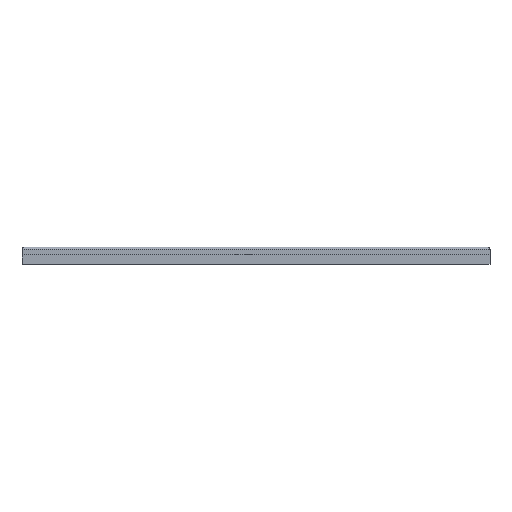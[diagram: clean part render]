
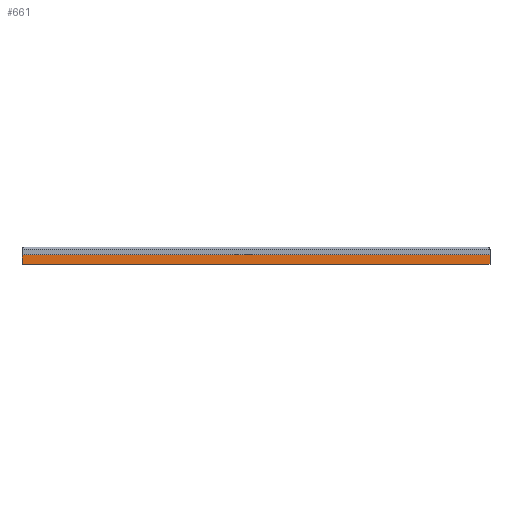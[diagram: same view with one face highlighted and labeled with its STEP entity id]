
A CAD part, front view. The second image highlights one B-rep face of the part: STEP entity #661.
In plain terms, the highlighted planar face has unit normal (0, -1, 0).
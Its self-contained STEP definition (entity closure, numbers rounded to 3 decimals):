
#32 = PLANE('',#33);
#33 = AXIS2_PLACEMENT_3D('',#34,#35,#36);
#34 = CARTESIAN_POINT('',(-86.4,-11.75,46.9));
#35 = DIRECTION('',(1.,0.,-0.));
#36 = DIRECTION('',(0.,0.,1.));
#57 = VERTEX_POINT('',#58);
#58 = CARTESIAN_POINT('',(-86.4,-13.95,47.15));
#72 = PLANE('',#73);
#73 = AXIS2_PLACEMENT_3D('',#74,#75,#76);
#74 = CARTESIAN_POINT('',(-86.4,-11.5,47.15));
#75 = DIRECTION('',(0.,0.,-1.));
#76 = DIRECTION('',(0.,-1.,0.));
#84 = EDGE_CURVE('',#57,#85,#87,.T.);
#85 = VERTEX_POINT('',#86);
#86 = CARTESIAN_POINT('',(-86.4,-13.95,43.955));
#87 = SURFACE_CURVE('',#88,(#92,#99),.PCURVE_S1.);
#88 = LINE('',#89,#90);
#89 = CARTESIAN_POINT('',(-86.4,-13.95,47.15));
#90 = VECTOR('',#91,1.);
#91 = DIRECTION('',(0.,0.,-1.));
#92 = PCURVE('',#32,#93);
#93 = DEFINITIONAL_REPRESENTATION('',(#94),#98);
#94 = LINE('',#95,#96);
#95 = CARTESIAN_POINT('',(0.25,2.2));
#96 = VECTOR('',#97,1.);
#97 = DIRECTION('',(-1.,0.));
#98 = ( GEOMETRIC_REPRESENTATION_CONTEXT(2) 
PARAMETRIC_REPRESENTATION_CONTEXT() REPRESENTATION_CONTEXT('2D SPACE',''
  ) );
#99 = PCURVE('',#100,#105);
#100 = PLANE('',#101);
#101 = AXIS2_PLACEMENT_3D('',#102,#103,#104);
#102 = CARTESIAN_POINT('',(-86.4,-13.95,47.15));
#103 = DIRECTION('',(-0.,1.,0.));
#104 = DIRECTION('',(0.,0.,-1.));
#105 = DEFINITIONAL_REPRESENTATION('',(#106),#110);
#106 = LINE('',#107,#108);
#107 = CARTESIAN_POINT('',(0.,0.));
#108 = VECTOR('',#109,1.);
#109 = DIRECTION('',(1.,0.));
#110 = ( GEOMETRIC_REPRESENTATION_CONTEXT(2) 
PARAMETRIC_REPRESENTATION_CONTEXT() REPRESENTATION_CONTEXT('2D SPACE',''
  ) );
#128 = PLANE('',#129);
#129 = AXIS2_PLACEMENT_3D('',#130,#131,#132);
#130 = CARTESIAN_POINT('',(-86.4,-13.95,43.955));
#131 = DIRECTION('',(0.,-0.342,0.94));
#132 = DIRECTION('',(0.,0.94,0.342));
#383 = PLANE('',#384);
#384 = AXIS2_PLACEMENT_3D('',#385,#386,#387);
#385 = CARTESIAN_POINT('',(69.,-12.828,45.736));
#386 = DIRECTION('',(1.,0.,0.));
#387 = DIRECTION('',(0.,1.,0.));
#550 = VERTEX_POINT('',#551);
#551 = CARTESIAN_POINT('',(69.,-13.95,47.15));
#572 = EDGE_CURVE('',#57,#550,#573,.T.);
#573 = SURFACE_CURVE('',#574,(#578,#585),.PCURVE_S1.);
#574 = LINE('',#575,#576);
#575 = CARTESIAN_POINT('',(-86.4,-13.95,47.15));
#576 = VECTOR('',#577,1.);
#577 = DIRECTION('',(1.,0.,0.));
#578 = PCURVE('',#72,#579);
#579 = DEFINITIONAL_REPRESENTATION('',(#580),#584);
#580 = LINE('',#581,#582);
#581 = CARTESIAN_POINT('',(2.45,0.));
#582 = VECTOR('',#583,1.);
#583 = DIRECTION('',(0.,-1.));
#584 = ( GEOMETRIC_REPRESENTATION_CONTEXT(2) 
PARAMETRIC_REPRESENTATION_CONTEXT() REPRESENTATION_CONTEXT('2D SPACE',''
  ) );
#585 = PCURVE('',#100,#586);
#586 = DEFINITIONAL_REPRESENTATION('',(#587),#591);
#587 = LINE('',#588,#589);
#588 = CARTESIAN_POINT('',(0.,0.));
#589 = VECTOR('',#590,1.);
#590 = DIRECTION('',(0.,-1.));
#591 = ( GEOMETRIC_REPRESENTATION_CONTEXT(2) 
PARAMETRIC_REPRESENTATION_CONTEXT() REPRESENTATION_CONTEXT('2D SPACE',''
  ) );
#661 = ADVANCED_FACE('',(#662),#100,.F.);
#662 = FACE_BOUND('',#663,.F.);
#663 = EDGE_LOOP('',(#664,#665,#666,#689,#717,#745,#773,#801));
#664 = ORIENTED_EDGE('',*,*,#84,.F.);
#665 = ORIENTED_EDGE('',*,*,#572,.T.);
#666 = ORIENTED_EDGE('',*,*,#667,.T.);
#667 = EDGE_CURVE('',#550,#668,#670,.T.);
#668 = VERTEX_POINT('',#669);
#669 = CARTESIAN_POINT('',(69.,-13.95,43.955));
#670 = SURFACE_CURVE('',#671,(#675,#682),.PCURVE_S1.);
#671 = LINE('',#672,#673);
#672 = CARTESIAN_POINT('',(69.,-13.95,47.15));
#673 = VECTOR('',#674,1.);
#674 = DIRECTION('',(0.,0.,-1.));
#675 = PCURVE('',#100,#676);
#676 = DEFINITIONAL_REPRESENTATION('',(#677),#681);
#677 = LINE('',#678,#679);
#678 = CARTESIAN_POINT('',(0.,-155.4));
#679 = VECTOR('',#680,1.);
#680 = DIRECTION('',(1.,0.));
#681 = ( GEOMETRIC_REPRESENTATION_CONTEXT(2) 
PARAMETRIC_REPRESENTATION_CONTEXT() REPRESENTATION_CONTEXT('2D SPACE',''
  ) );
#682 = PCURVE('',#383,#683);
#683 = DEFINITIONAL_REPRESENTATION('',(#684),#688);
#684 = LINE('',#685,#686);
#685 = CARTESIAN_POINT('',(-1.122,1.414));
#686 = VECTOR('',#687,1.);
#687 = DIRECTION('',(0.,-1.));
#688 = ( GEOMETRIC_REPRESENTATION_CONTEXT(2) 
PARAMETRIC_REPRESENTATION_CONTEXT() REPRESENTATION_CONTEXT('2D SPACE',''
  ) );
#689 = ORIENTED_EDGE('',*,*,#690,.F.);
#690 = EDGE_CURVE('',#691,#668,#693,.T.);
#691 = VERTEX_POINT('',#692);
#692 = CARTESIAN_POINT('',(64.,-13.95,43.955));
#693 = SURFACE_CURVE('',#694,(#698,#705),.PCURVE_S1.);
#694 = LINE('',#695,#696);
#695 = CARTESIAN_POINT('',(-86.4,-13.95,43.955));
#696 = VECTOR('',#697,1.);
#697 = DIRECTION('',(1.,0.,0.));
#698 = PCURVE('',#100,#699);
#699 = DEFINITIONAL_REPRESENTATION('',(#700),#704);
#700 = LINE('',#701,#702);
#701 = CARTESIAN_POINT('',(3.195,0.));
#702 = VECTOR('',#703,1.);
#703 = DIRECTION('',(0.,-1.));
#704 = ( GEOMETRIC_REPRESENTATION_CONTEXT(2) 
PARAMETRIC_REPRESENTATION_CONTEXT() REPRESENTATION_CONTEXT('2D SPACE',''
  ) );
#705 = PCURVE('',#706,#711);
#706 = PLANE('',#707);
#707 = AXIS2_PLACEMENT_3D('',#708,#709,#710);
#708 = CARTESIAN_POINT('',(-86.4,-13.95,43.955));
#709 = DIRECTION('',(0.,-0.342,0.94));
#710 = DIRECTION('',(0.,0.94,0.342));
#711 = DEFINITIONAL_REPRESENTATION('',(#712),#716);
#712 = LINE('',#713,#714);
#713 = CARTESIAN_POINT('',(0.,0.));
#714 = VECTOR('',#715,1.);
#715 = DIRECTION('',(0.,-1.));
#716 = ( GEOMETRIC_REPRESENTATION_CONTEXT(2) 
PARAMETRIC_REPRESENTATION_CONTEXT() REPRESENTATION_CONTEXT('2D SPACE',''
  ) );
#717 = ORIENTED_EDGE('',*,*,#718,.T.);
#718 = EDGE_CURVE('',#691,#719,#721,.T.);
#719 = VERTEX_POINT('',#720);
#720 = CARTESIAN_POINT('',(64.,-13.95,43.805));
#721 = SURFACE_CURVE('',#722,(#726,#733),.PCURVE_S1.);
#722 = LINE('',#723,#724);
#723 = CARTESIAN_POINT('',(64.,-13.95,44.155));
#724 = VECTOR('',#725,1.);
#725 = DIRECTION('',(0.,0.,-1.));
#726 = PCURVE('',#100,#727);
#727 = DEFINITIONAL_REPRESENTATION('',(#728),#732);
#728 = LINE('',#729,#730);
#729 = CARTESIAN_POINT('',(2.995,-150.4));
#730 = VECTOR('',#731,1.);
#731 = DIRECTION('',(1.,0.));
#732 = ( GEOMETRIC_REPRESENTATION_CONTEXT(2) 
PARAMETRIC_REPRESENTATION_CONTEXT() REPRESENTATION_CONTEXT('2D SPACE',''
  ) );
#733 = PCURVE('',#734,#739);
#734 = PLANE('',#735);
#735 = AXIS2_PLACEMENT_3D('',#736,#737,#738);
#736 = CARTESIAN_POINT('',(64.,-12.725,44.425));
#737 = DIRECTION('',(1.,0.,0.));
#738 = DIRECTION('',(0.,1.,0.));
#739 = DEFINITIONAL_REPRESENTATION('',(#740),#744);
#740 = LINE('',#741,#742);
#741 = CARTESIAN_POINT('',(-1.225,-0.27));
#742 = VECTOR('',#743,1.);
#743 = DIRECTION('',(0.,-1.));
#744 = ( GEOMETRIC_REPRESENTATION_CONTEXT(2) 
PARAMETRIC_REPRESENTATION_CONTEXT() REPRESENTATION_CONTEXT('2D SPACE',''
  ) );
#745 = ORIENTED_EDGE('',*,*,#746,.F.);
#746 = EDGE_CURVE('',#747,#719,#749,.T.);
#747 = VERTEX_POINT('',#748);
#748 = CARTESIAN_POINT('',(61.,-13.95,43.805));
#749 = SURFACE_CURVE('',#750,(#754,#761),.PCURVE_S1.);
#750 = LINE('',#751,#752);
#751 = CARTESIAN_POINT('',(61.,-13.95,43.805));
#752 = VECTOR('',#753,1.);
#753 = DIRECTION('',(1.,0.,0.));
#754 = PCURVE('',#100,#755);
#755 = DEFINITIONAL_REPRESENTATION('',(#756),#760);
#756 = LINE('',#757,#758);
#757 = CARTESIAN_POINT('',(3.345,-147.4));
#758 = VECTOR('',#759,1.);
#759 = DIRECTION('',(0.,-1.));
#760 = ( GEOMETRIC_REPRESENTATION_CONTEXT(2) 
PARAMETRIC_REPRESENTATION_CONTEXT() REPRESENTATION_CONTEXT('2D SPACE',''
  ) );
#761 = PCURVE('',#762,#767);
#762 = PLANE('',#763);
#763 = AXIS2_PLACEMENT_3D('',#764,#765,#766);
#764 = CARTESIAN_POINT('',(61.,-13.95,43.805));
#765 = DIRECTION('',(0.,-0.342,0.94));
#766 = DIRECTION('',(0.,0.94,0.342));
#767 = DEFINITIONAL_REPRESENTATION('',(#768),#772);
#768 = LINE('',#769,#770);
#769 = CARTESIAN_POINT('',(0.,0.));
#770 = VECTOR('',#771,1.);
#771 = DIRECTION('',(0.,-1.));
#772 = ( GEOMETRIC_REPRESENTATION_CONTEXT(2) 
PARAMETRIC_REPRESENTATION_CONTEXT() REPRESENTATION_CONTEXT('2D SPACE',''
  ) );
#773 = ORIENTED_EDGE('',*,*,#774,.F.);
#774 = EDGE_CURVE('',#775,#747,#777,.T.);
#775 = VERTEX_POINT('',#776);
#776 = CARTESIAN_POINT('',(61.,-13.95,43.955));
#777 = SURFACE_CURVE('',#778,(#782,#789),.PCURVE_S1.);
#778 = LINE('',#779,#780);
#779 = CARTESIAN_POINT('',(61.,-13.95,44.155));
#780 = VECTOR('',#781,1.);
#781 = DIRECTION('',(0.,0.,-1.));
#782 = PCURVE('',#100,#783);
#783 = DEFINITIONAL_REPRESENTATION('',(#784),#788);
#784 = LINE('',#785,#786);
#785 = CARTESIAN_POINT('',(2.995,-147.4));
#786 = VECTOR('',#787,1.);
#787 = DIRECTION('',(1.,0.));
#788 = ( GEOMETRIC_REPRESENTATION_CONTEXT(2) 
PARAMETRIC_REPRESENTATION_CONTEXT() REPRESENTATION_CONTEXT('2D SPACE',''
  ) );
#789 = PCURVE('',#790,#795);
#790 = PLANE('',#791);
#791 = AXIS2_PLACEMENT_3D('',#792,#793,#794);
#792 = CARTESIAN_POINT('',(61.,-12.725,44.425));
#793 = DIRECTION('',(1.,0.,0.));
#794 = DIRECTION('',(0.,1.,0.));
#795 = DEFINITIONAL_REPRESENTATION('',(#796),#800);
#796 = LINE('',#797,#798);
#797 = CARTESIAN_POINT('',(-1.225,-0.27));
#798 = VECTOR('',#799,1.);
#799 = DIRECTION('',(0.,-1.));
#800 = ( GEOMETRIC_REPRESENTATION_CONTEXT(2) 
PARAMETRIC_REPRESENTATION_CONTEXT() REPRESENTATION_CONTEXT('2D SPACE',''
  ) );
#801 = ORIENTED_EDGE('',*,*,#802,.F.);
#802 = EDGE_CURVE('',#85,#775,#803,.T.);
#803 = SURFACE_CURVE('',#804,(#808,#815),.PCURVE_S1.);
#804 = LINE('',#805,#806);
#805 = CARTESIAN_POINT('',(-86.4,-13.95,43.955));
#806 = VECTOR('',#807,1.);
#807 = DIRECTION('',(1.,0.,0.));
#808 = PCURVE('',#100,#809);
#809 = DEFINITIONAL_REPRESENTATION('',(#810),#814);
#810 = LINE('',#811,#812);
#811 = CARTESIAN_POINT('',(3.195,0.));
#812 = VECTOR('',#813,1.);
#813 = DIRECTION('',(0.,-1.));
#814 = ( GEOMETRIC_REPRESENTATION_CONTEXT(2) 
PARAMETRIC_REPRESENTATION_CONTEXT() REPRESENTATION_CONTEXT('2D SPACE',''
  ) );
#815 = PCURVE('',#128,#816);
#816 = DEFINITIONAL_REPRESENTATION('',(#817),#821);
#817 = LINE('',#818,#819);
#818 = CARTESIAN_POINT('',(0.,0.));
#819 = VECTOR('',#820,1.);
#820 = DIRECTION('',(0.,-1.));
#821 = ( GEOMETRIC_REPRESENTATION_CONTEXT(2) 
PARAMETRIC_REPRESENTATION_CONTEXT() REPRESENTATION_CONTEXT('2D SPACE',''
  ) );
